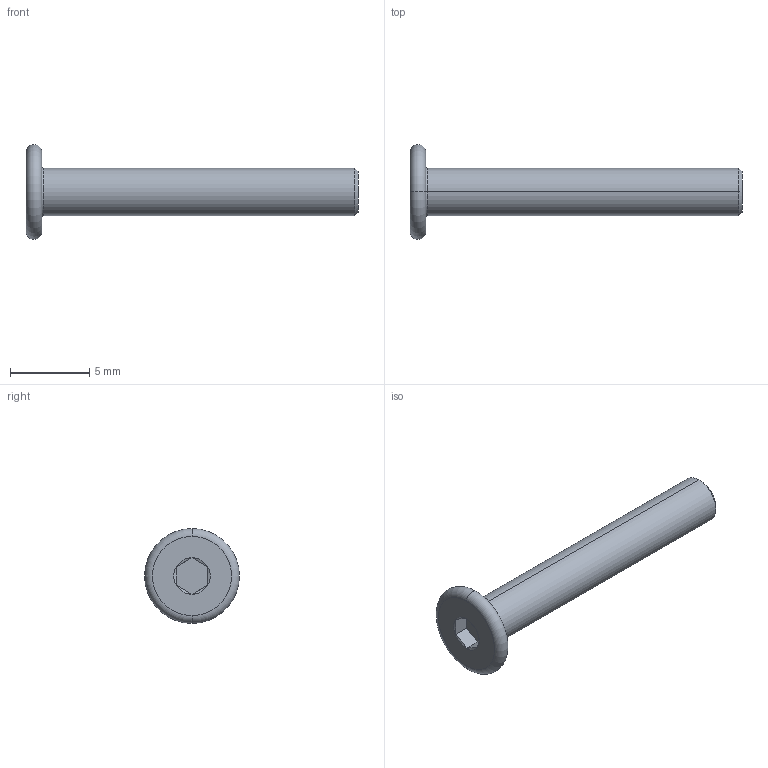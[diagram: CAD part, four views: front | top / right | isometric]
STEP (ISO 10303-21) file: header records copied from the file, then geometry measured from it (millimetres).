
FILE_DESCRIPTION (( 'STEP AP203' ), '1' );
FILE_NAME ('LGD-304M-M3x20.STEP', '2026-08-13T09:37:16', ( '' ), ( '' ), 'SwSTEP 2.0', 'SolidWorks 2020', '' );
FILE_SCHEMA (( 'CONFIG_CONTROL_DESIGN' ));
Length unit declared in the file: millimetre
Products named in the file (1): LGD-304M-M3x20
Bounding box: 21 x 6 x 6 mm (x, y, z)
Volume: 164.1 mm3; surface area: 260.7 mm2
Topology: 1 solids, 1 shells, 24 faces, 44 edges, 24 vertices
Faces by surface type: plane 10, cone 8, torus 4, cylinder 2
Entity records: 677 total; most frequent: CARTESIAN_POINT 123, DIRECTION 110, ORIENTED_EDGE 88, AXIS2_PLACEMENT_3D 47, EDGE_CURVE 44, EDGE_LOOP 26, FACE_OUTER_BOUND 24, VERTEX_POINT 24
